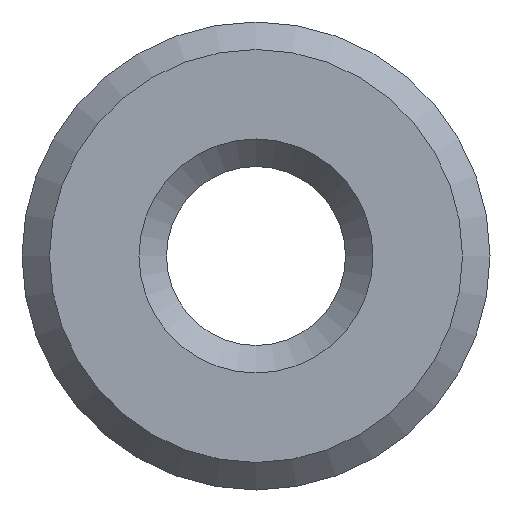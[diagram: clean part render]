
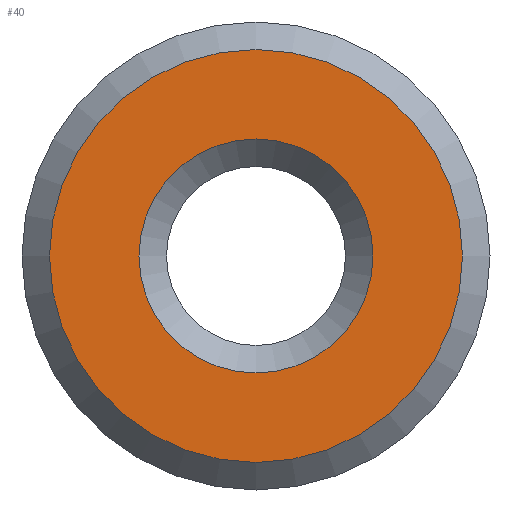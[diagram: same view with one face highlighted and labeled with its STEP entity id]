
A CAD part, front view. The second image highlights one B-rep face of the part: STEP entity #40.
In plain terms, the highlighted planar face has unit normal (0, -1, 0).
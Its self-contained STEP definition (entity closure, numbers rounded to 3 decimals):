
#40 = ADVANCED_FACE( '', ( #81, #82 ), #83, .F. );
#81 = FACE_BOUND( '', #120, .T. );
#82 = FACE_OUTER_BOUND( '', #121, .T. );
#83 = PLANE( '', #122 );
#120 = EDGE_LOOP( '', ( #161 ) );
#121 = EDGE_LOOP( '', ( #162 ) );
#122 = AXIS2_PLACEMENT_3D( '', #163, #164, #165 );
#161 = ORIENTED_EDGE( '', *, *, #194, .T. );
#162 = ORIENTED_EDGE( '', *, *, #195, .T. );
#163 = CARTESIAN_POINT( '', ( 0., 0., 0. ) );
#164 = DIRECTION( '', ( 0., 1., 0. ) );
#165 = DIRECTION( '', ( 0., 0., 1. ) );
#194 = EDGE_CURVE( '', #215, #215, #216, .T. );
#195 = EDGE_CURVE( '', #217, #217, #218, .F. );
#215 = VERTEX_POINT( '', #239 );
#216 = CIRCLE( '', #240, 4.25 );
#217 = VERTEX_POINT( '', #241 );
#218 = CIRCLE( '', #242, 7.5 );
#239 = CARTESIAN_POINT( '', ( 0., 0., 4.25 ) );
#240 = AXIS2_PLACEMENT_3D( '', #263, #264, #265 );
#241 = CARTESIAN_POINT( '', ( 0., 0., 7.5 ) );
#242 = AXIS2_PLACEMENT_3D( '', #266, #267, #268 );
#263 = CARTESIAN_POINT( '', ( 0., 0., 0. ) );
#264 = DIRECTION( '', ( 0., 1., 0. ) );
#265 = DIRECTION( '', ( 0., 0., 1. ) );
#266 = CARTESIAN_POINT( '', ( 0., 0., 0. ) );
#267 = DIRECTION( '', ( 0., 1., 0. ) );
#268 = DIRECTION( '', ( 0., 0., 1. ) );
